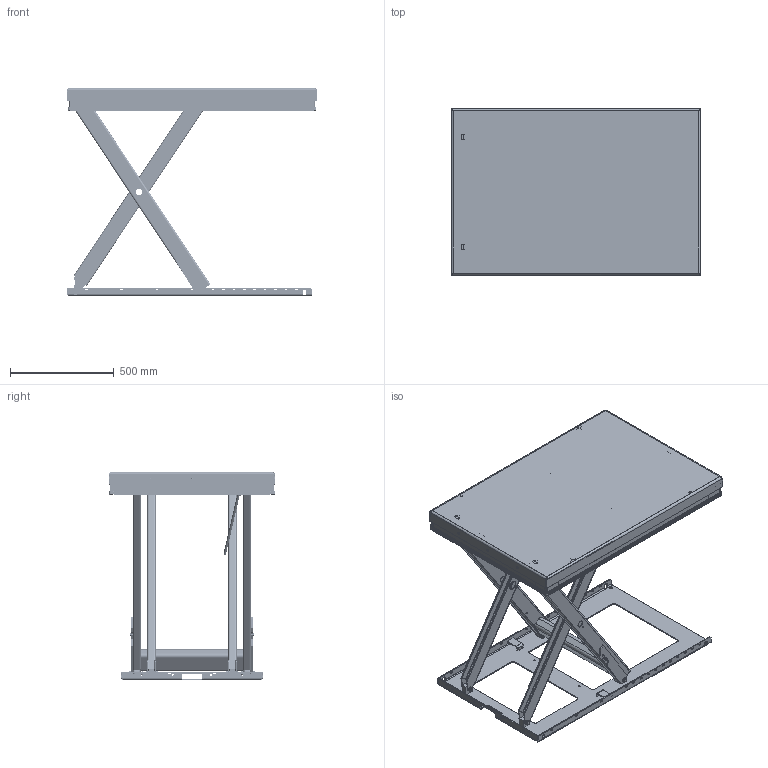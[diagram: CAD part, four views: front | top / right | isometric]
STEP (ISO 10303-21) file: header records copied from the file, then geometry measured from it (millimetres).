
FILE_DESCRIPTION(/* description */ ('Bottenramsplåt'),/* implementation_level */ '2;1');
FILE_NAME(/* name */ 'C:\Autodesk_VaultWork\Ritningar\Exporterade modeller\TL 1001B - (33024)\33024_Raised.stp',/* time_stamp */ '2018-03-08T10:28:38+01:00',/* author */ ('johso'),/* organization */ (''),/* preprocessor_version */ 'ST-DEVELOPER v16.5',/* originating_system */ 'Autodesk Inventor 2017',/* authorisation */ '');
FILE_SCHEMA (('AUTOMOTIVE_DESIGN { 1 0 10303 214 3 1 1 }'));
Products named in the file (1): 33024_Elevated
Bounding box: 1200.1 x 800 x 1000 mm (x, y, z)
Volume: 14576718.8 mm3; surface area: 7100451.3 mm2
Topology: 147 solids, 147 shells, 5483 faces, 14465 edges, 9401 vertices
Faces by surface type: plane 2766, cylinder 1849, bspline 530, cone 216, torus 74, sphere 48
Full cylindrical faces by diameter (mm): 0.474 x2, 1 x4, 3 x4, 3.141 x4, 3.2 x4, 3.242 x4, 4 x14, 4.3 x4, 4.9 x2, 5 x4, 5.2 x6, 5.3 x4, 6.647 x4, 6.8 x4, 7.4 x6, 7.6 x4, 8 x12, 8.376 x8, 8.5 x4, 9 x1, 10 x18, 10.2 x16, 10.5 x25, 11 x12, 11.63 x6, 12 x5, 12.5 x6, 13 x4, 14.63 x8, 16 x26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
Entity records: 188376 total; most frequent: CARTESIAN_POINT 55710, ORIENTED_EDGE 27728, DIRECTION 26477, EDGE_CURVE 13861, VERTEX_POINT 9300, AXIS2_PLACEMENT_3D 9196, LINE 8085, VECTOR 8085
